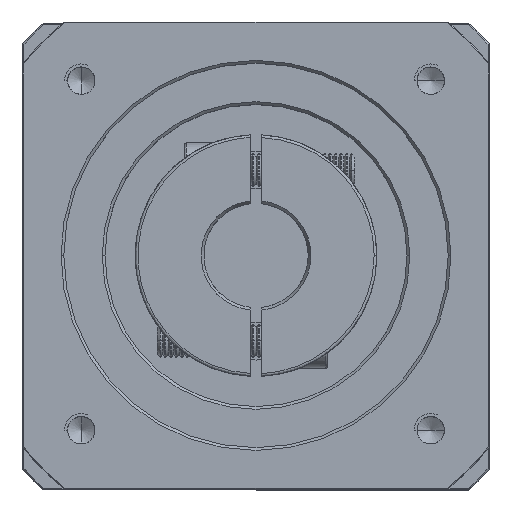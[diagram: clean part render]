
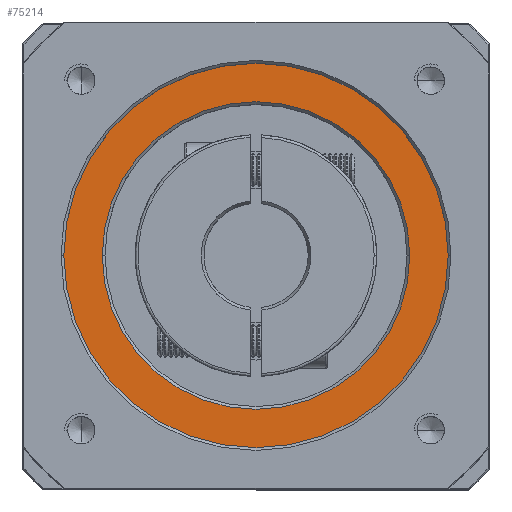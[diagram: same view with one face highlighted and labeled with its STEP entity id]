
A CAD part, top view. The second image highlights one B-rep face of the part: STEP entity #75214.
In plain terms, the highlighted planar face has unit normal (0, 0, 1).
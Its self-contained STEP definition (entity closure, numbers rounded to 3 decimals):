
#830 = EDGE_CURVE ( 'NONE', #91977, #71330, #20395, .T. ) ;
#2640 = CARTESIAN_POINT ( 'NONE',  ( -127.814, 19.007, 12.467 ) ) ;
#6951 = DIRECTION ( 'NONE',  ( 0., 0., 1. ) ) ;
#15325 = EDGE_CURVE ( 'NONE', #28308, #104393, #53645, .T. ) ;
#18729 = CARTESIAN_POINT ( 'NONE',  ( -57.814, 19.007, 12.467 ) ) ;
#19106 = DIRECTION ( 'NONE',  ( 0., 0., -1. ) ) ;
#19533 = AXIS2_PLACEMENT_3D ( 'NONE', #91900, #40165, #100483 ) ;
#20395 = CIRCLE ( 'NONE', #98214, 35. ) ;
#20734 = EDGE_LOOP ( 'NONE', ( #97758, #99478 ) ) ;
#21932 = EDGE_CURVE ( 'NONE', #104393, #28308, #30211, .T. ) ;
#23978 = PLANE ( 'NONE',  #42311 ) ;
#28308 = VERTEX_POINT ( 'NONE', #74166 ) ;
#30211 = CIRCLE ( 'NONE', #51295, 28. ) ;
#33089 = DIRECTION ( 'NONE',  ( 0., 0., -1. ) ) ;
#33238 = CIRCLE ( 'NONE', #19533, 35. ) ;
#33336 = FACE_OUTER_BOUND ( 'NONE', #20734, .T. ) ;
#40165 = DIRECTION ( 'NONE',  ( 0., 0., 1. ) ) ;
#42311 = AXIS2_PLACEMENT_3D ( 'NONE', #58810, #6951, #67470 ) ;
#51295 = AXIS2_PLACEMENT_3D ( 'NONE', #84965, #33089, #93576 ) ;
#53645 = CIRCLE ( 'NONE', #65608, 28. ) ;
#53697 = FACE_BOUND ( 'NONE', #93214, .T. ) ;
#56653 = DIRECTION ( 'NONE',  ( 1., 0., 0. ) ) ;
#56912 = DIRECTION ( 'NONE',  ( 0., 0., 1. ) ) ;
#56934 = CARTESIAN_POINT ( 'NONE',  ( -92.814, 19.007, 12.467 ) ) ;
#58810 = CARTESIAN_POINT ( 'NONE',  ( -92.814, 19.007, 12.467 ) ) ;
#65608 = AXIS2_PLACEMENT_3D ( 'NONE', #70938, #19106, #79679 ) ;
#67470 = DIRECTION ( 'NONE',  ( 1., 0., 0. ) ) ;
#70938 = CARTESIAN_POINT ( 'NONE',  ( -92.814, 19.007, 12.467 ) ) ;
#71330 = VERTEX_POINT ( 'NONE', #18729 ) ;
#74166 = CARTESIAN_POINT ( 'NONE',  ( -120.814, 19.007, 12.467 ) ) ;
#75214 = ADVANCED_FACE ( 'NONE', ( #33336, #53697 ), #23978, .T. ) ;
#79050 = CARTESIAN_POINT ( 'NONE',  ( -64.814, 19.007, 12.467 ) ) ;
#79182 = EDGE_CURVE ( 'NONE', #71330, #91977, #33238, .T. ) ;
#79679 = DIRECTION ( 'NONE',  ( 1., 0., 0. ) ) ;
#84965 = CARTESIAN_POINT ( 'NONE',  ( -92.814, 19.007, 12.467 ) ) ;
#91900 = CARTESIAN_POINT ( 'NONE',  ( -92.814, 19.007, 12.467 ) ) ;
#91977 = VERTEX_POINT ( 'NONE', #2640 ) ;
#93214 = EDGE_LOOP ( 'NONE', ( #100860, #104783 ) ) ;
#93576 = DIRECTION ( 'NONE',  ( 1., 0., 0. ) ) ;
#97758 = ORIENTED_EDGE ( 'NONE', *, *, #79182, .T. ) ;
#98214 = AXIS2_PLACEMENT_3D ( 'NONE', #56934, #56912, #56653 ) ;
#99478 = ORIENTED_EDGE ( 'NONE', *, *, #830, .T. ) ;
#100483 = DIRECTION ( 'NONE',  ( 1., 0., 0. ) ) ;
#100860 = ORIENTED_EDGE ( 'NONE', *, *, #21932, .T. ) ;
#104393 = VERTEX_POINT ( 'NONE', #79050 ) ;
#104783 = ORIENTED_EDGE ( 'NONE', *, *, #15325, .T. ) ;
